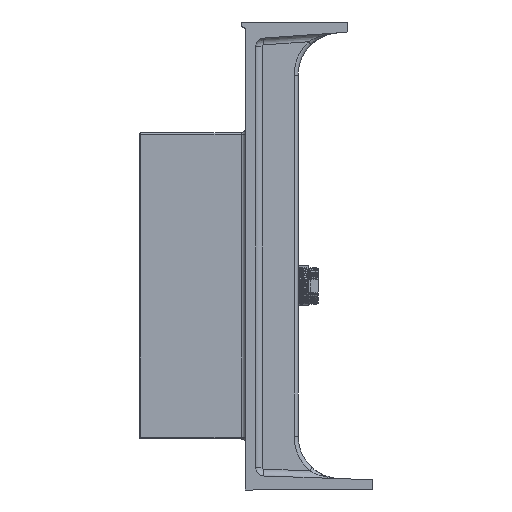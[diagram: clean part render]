
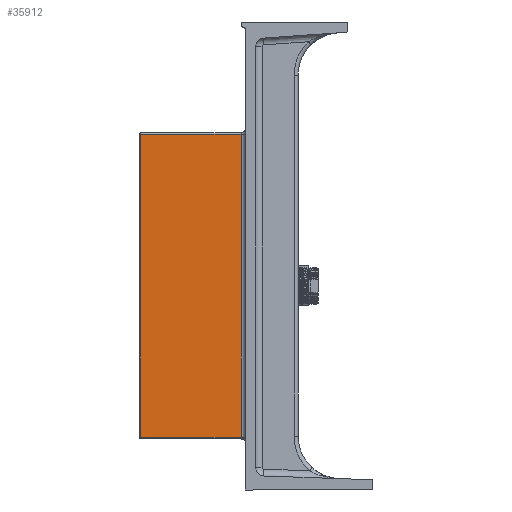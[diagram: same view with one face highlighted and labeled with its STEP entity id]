
A CAD part, left-side view. The second image highlights one B-rep face of the part: STEP entity #35912.
In plain terms, the highlighted planar face has unit normal (-1, 0, 0).
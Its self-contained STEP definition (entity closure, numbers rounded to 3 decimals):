
#563 = CARTESIAN_POINT ( 'NONE',  ( -300., -120., 178. ) ) ;
#2195 = PLANE ( 'NONE',  #4465 ) ;
#2624 = EDGE_CURVE ( 'NONE', #17595, #10124, #38310, .T. ) ;
#3359 = VECTOR ( 'NONE', #20734, 1000. ) ;
#3449 = DIRECTION ( 'NONE',  ( 0., 0., 1. ) ) ;
#4465 = AXIS2_PLACEMENT_3D ( 'NONE', #22398, #22788, #11052 ) ;
#4572 = FACE_OUTER_BOUND ( 'NONE', #35735, .T. ) ;
#10124 = VERTEX_POINT ( 'NONE', #30861 ) ;
#10591 = ORIENTED_EDGE ( 'NONE', *, *, #36369, .T. ) ;
#10782 = VECTOR ( 'NONE', #12212, 1000. ) ;
#11052 = DIRECTION ( 'NONE',  ( 0., 0., 1. ) ) ;
#11159 = EDGE_CURVE ( 'NONE', #32678, #38070, #14511, .T. ) ;
#11638 = CARTESIAN_POINT ( 'NONE',  ( -300., -2., -180. ) ) ;
#12212 = DIRECTION ( 'NONE',  ( 0., 0., -1. ) ) ;
#14511 = LINE ( 'NONE', #33107, #3359 ) ;
#14849 = ORIENTED_EDGE ( 'NONE', *, *, #2624, .T. ) ;
#17595 = VERTEX_POINT ( 'NONE', #35745 ) ;
#18377 = LINE ( 'NONE', #33274, #24300 ) ;
#20734 = DIRECTION ( 'NONE',  ( 0., 1., 0. ) ) ;
#22305 = CARTESIAN_POINT ( 'NONE',  ( -300., -2., 178. ) ) ;
#22398 = CARTESIAN_POINT ( 'NONE',  ( -300., 0., 180. ) ) ;
#22788 = DIRECTION ( 'NONE',  ( 1., 0., 0. ) ) ;
#24300 = VECTOR ( 'NONE', #3449, 1000. ) ;
#24542 = VECTOR ( 'NONE', #26730, 1000. ) ;
#26730 = DIRECTION ( 'NONE',  ( 0., -1., 0. ) ) ;
#30861 = CARTESIAN_POINT ( 'NONE',  ( -300., -120., -178. ) ) ;
#32422 = CARTESIAN_POINT ( 'NONE',  ( -300., 0., -178. ) ) ;
#32678 = VERTEX_POINT ( 'NONE', #563 ) ;
#33107 = CARTESIAN_POINT ( 'NONE',  ( -300., 0., 178. ) ) ;
#33267 = EDGE_CURVE ( 'NONE', #10124, #32678, #18377, .T. ) ;
#33274 = CARTESIAN_POINT ( 'NONE',  ( -300., -120., 180. ) ) ;
#33930 = ORIENTED_EDGE ( 'NONE', *, *, #33267, .T. ) ;
#35735 = EDGE_LOOP ( 'NONE', ( #14849, #33930, #38121, #10591 ) ) ;
#35745 = CARTESIAN_POINT ( 'NONE',  ( -300., -2., -178. ) ) ;
#35912 = ADVANCED_FACE ( 'NONE', ( #4572 ), #2195, .F. ) ;
#36369 = EDGE_CURVE ( 'NONE', #38070, #17595, #38492, .T. ) ;
#38070 = VERTEX_POINT ( 'NONE', #22305 ) ;
#38121 = ORIENTED_EDGE ( 'NONE', *, *, #11159, .T. ) ;
#38310 = LINE ( 'NONE', #32422, #24542 ) ;
#38492 = LINE ( 'NONE', #11638, #10782 ) ;
